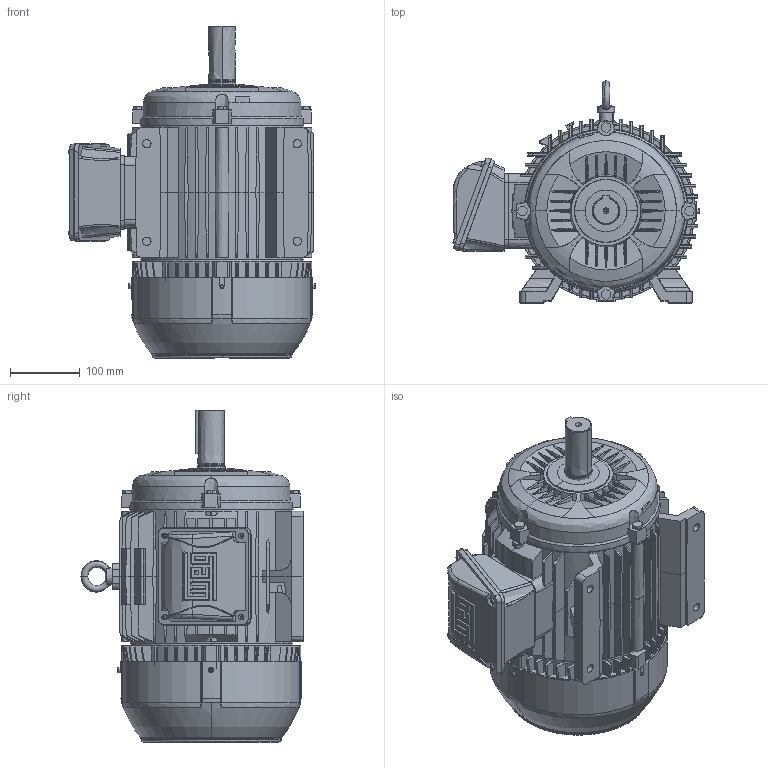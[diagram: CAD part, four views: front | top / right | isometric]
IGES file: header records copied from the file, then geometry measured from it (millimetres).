
Start section: SolidWorks IGES file using analytic representation for surfaces
Global section: file name: C:\Users\jean2\Desktop\W22_GENERAL_PURPOSE\16_FRAME_L132S\STANDARD\IGS\L132S_LEFT.IGS; native system: SolidWorks 2016; preprocessor: SolidWorks 2016; author: jean2; date: 160920.095239; units: millimetre
Bounding box: 354.05 x 319 x 476.9 mm (x, y, z)
Surface area: 1145917 mm2 (no closed solid volume)
Topology: 0 solids, 0 shells, 3301 faces, 26093 edges, 26072 vertices
Faces by surface type: bspline 2563, revolution 738
